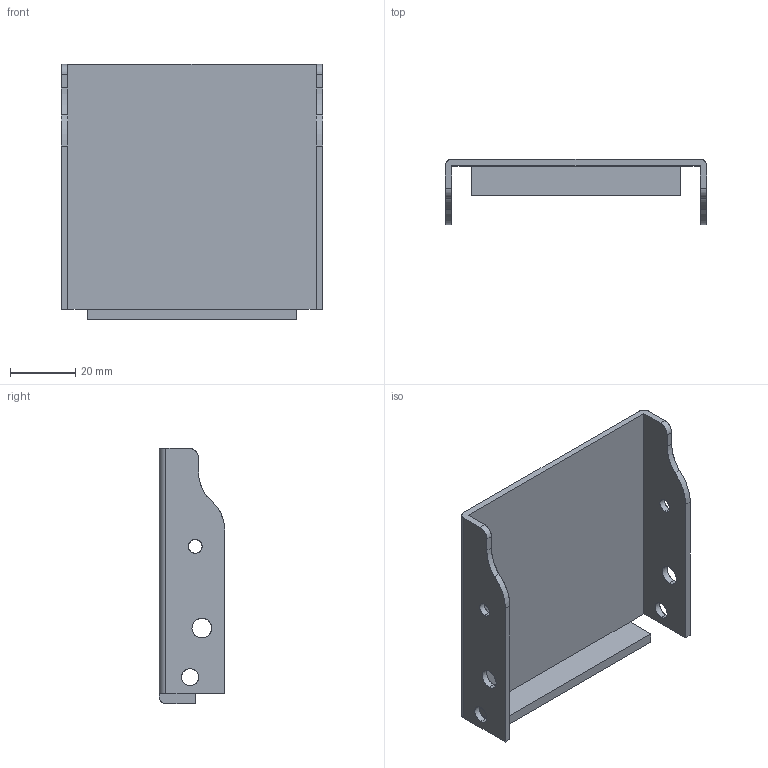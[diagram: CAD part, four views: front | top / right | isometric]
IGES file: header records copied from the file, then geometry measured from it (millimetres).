
Start section: SolidWorks IGES file using analytic representation for surfaces
Global section: file name: C:\Users\cbrechard.SAV\Desktop\GE 91\91 010 00.IGS; native system: SolidWorks 2013; preprocessor: SolidWorks 2013; author: cbrechard; date: 150422.173743; units: millimetre
Bounding box: 80 x 20 x 78.1 mm (x, y, z)
Surface area: 18982.2 mm2 (no closed solid volume)
Topology: 0 solids, 0 shells, 39 faces, 688 edges, 688 vertices
Faces by surface type: revolution 21, bspline 18
